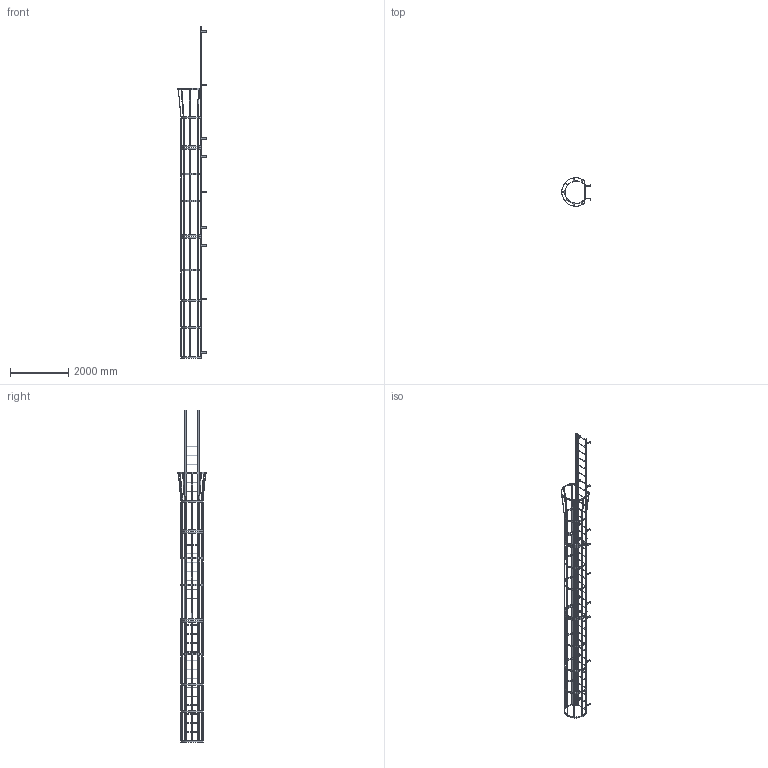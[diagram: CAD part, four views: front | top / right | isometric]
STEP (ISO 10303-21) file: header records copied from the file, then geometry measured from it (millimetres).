
FILE_DESCRIPTION(/* description */ (''),/* implementation_level */ '2;1');
FILE_NAME(/* name */ 'P:\MIKEL & KAREN\3570369 F38SC SIMPLIFIED PART.stp',/* time_stamp */ '2018-07-02T16:09:28-04:00',/* author */ ('stephanie'),/* organization */ (''),/* preprocessor_version */ 'ST-DEVELOPER v16.1',/* originating_system */ 'Autodesk Inventor 2016',/* authorisation */ '');
FILE_SCHEMA (('AUTOMOTIVE_DESIGN { 1 0 10303 214 3 1 1 }'));
Length unit declared in the file: centimetre
Products named in the file (1): 3570369 F38SC SIMPLIFIED PART
Bounding box: 974.15 x 977.88 x 11353.8 mm (x, y, z)
Volume: 39254353.3 mm3; surface area: 14019786.1 mm2
Topology: 56 solids, 56 shells, 1094 faces, 3270 edges, 2104 vertices
Faces by surface type: plane 716, cylinder 378
Full cylindrical faces by diameter (mm): 14.287 x22, 19.05 x38, 22.225 x76
Entity records: 37116 total; most frequent: ORIENTED_EDGE 6324, CARTESIAN_POINT 6137, DIRECTION 6134, EDGE_CURVE 3036, LINE 2128, VECTOR 2128, VERTEX_POINT 2006, AXIS2_PLACEMENT_3D 2003
